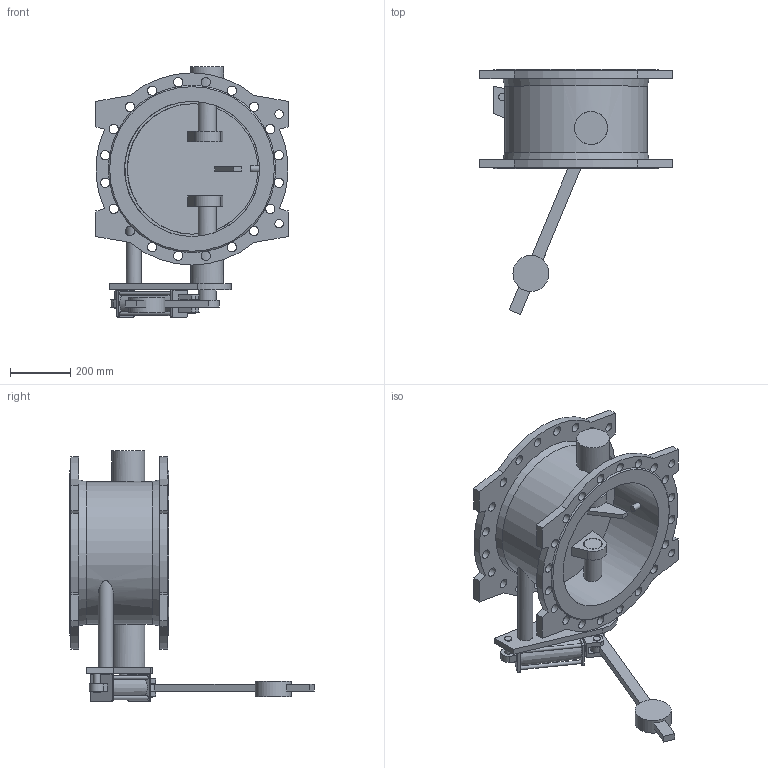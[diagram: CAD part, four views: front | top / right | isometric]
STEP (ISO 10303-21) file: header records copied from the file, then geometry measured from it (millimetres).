
FILE_DESCRIPTION(('STEP AP203'), '1');
FILE_NAME('Êëàïàí 015F.PV DN450 PN16 ñ ïðîòèâîâåñîì ñ äåìïôåðîì', '', ('UNSPECIFIED'), ('UNSPECIFIED'), 'ASCON STEP Converter 1.6', 'ASCON Math Kernel', '');
FILE_SCHEMA(('CONFIG_CONTROL_DESIGN'));
Length unit declared in the file: millimetre
Bounding box: 640 x 815 x 833.5 mm (x, y, z)
Volume: 24323076 mm3; surface area: 2688775.2 mm2
Topology: 1 solids, 1 shells, 207 faces, 644 edges, 427 vertices
Faces by surface type: plane 100, cylinder 97, cone 5, extrusion 2, torus 2, bspline 1
Full cylindrical faces by diameter (mm): 12 x4, 16 x1, 20 x1, 22 x2, 24 x7, 28 x4, 30 x1, 31 x40, 50 x1, 60 x3, 62 x2, 110 x2, 120 x1, 450 x1, 476 x1
Entity records: 13023 total; most frequent: CARTESIAN_POINT 5583, DIRECTION 1182, ORIENTED_EDGE 1116, EDGE_CURVE 558, AXIS2_PLACEMENT_3D 483, VERTEX_POINT 426, EDGE_LOOP 390, CIRCLE 278
